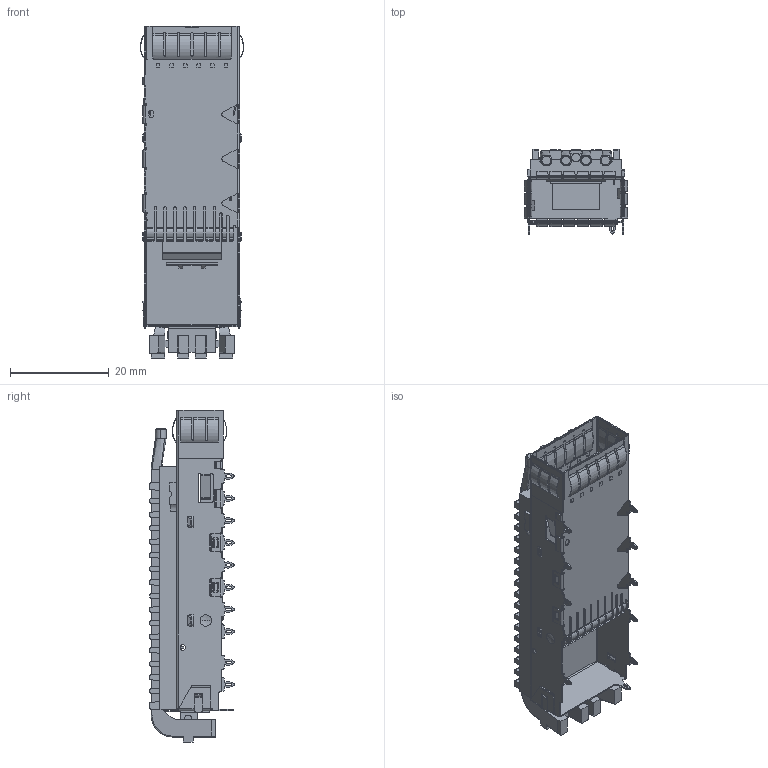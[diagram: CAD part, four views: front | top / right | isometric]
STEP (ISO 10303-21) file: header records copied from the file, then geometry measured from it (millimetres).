
FILE_DESCRIPTION (( 'STEP AP203' ), '1' );
FILE_NAME ('錨璃2^蚾饜极1.STEP', '2024-03-29T08:55:53', ( '' ), ( '' ), 'SwSTEP 2.0', 'SolidWorks 2018', '' );
FILE_SCHEMA (( 'CONFIG_CONTROL_DESIGN' ));
Products named in the file (1): 錨璃2^蚾饜极1
Bounding box: 20.91 x 17.15 x 67.25 mm (x, y, z)
Volume: 5718.5 mm3; surface area: 10499.7 mm2
Topology: 1 solids, 1 shells, 2950 faces, 7755 edges, 4787 vertices
Faces by surface type: plane 1681, cylinder 1142, bspline 91, sphere 24, cone 8, torus 4
Entity records: 92981 total; most frequent: CARTESIAN_POINT 19465, ORIENTED_EDGE 15478, DIRECTION 15430, EDGE_CURVE 7739, AXIS2_PLACEMENT_3D 5220, LINE 4990, VECTOR 4990, VERTEX_POINT 4787
